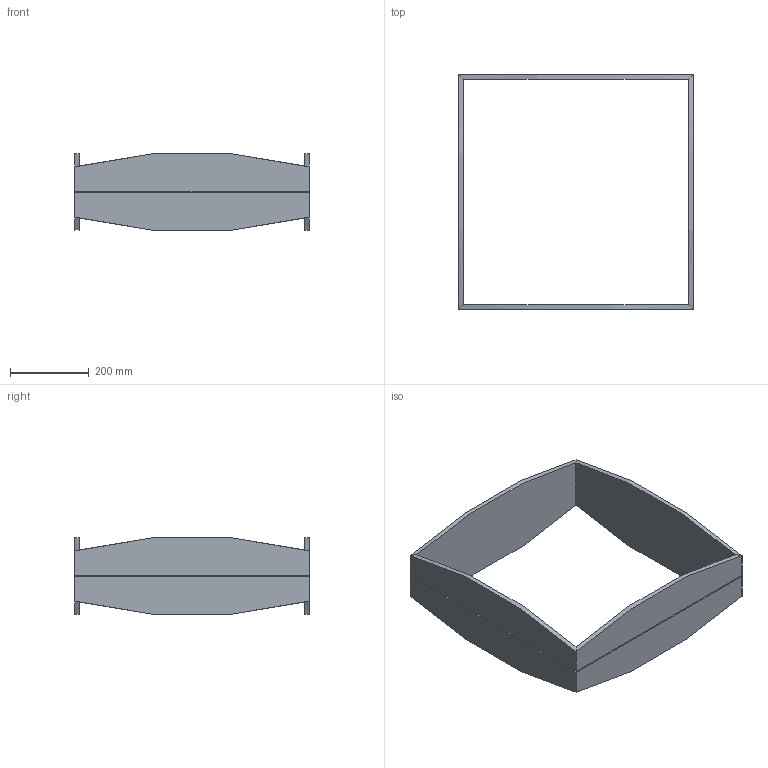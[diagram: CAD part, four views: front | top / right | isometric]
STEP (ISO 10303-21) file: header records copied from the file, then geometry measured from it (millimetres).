
FILE_DESCRIPTION(/* description */ (''),/* implementation_level */ '2;1');
FILE_NAME(/* name */ 'Profile_5',/* time_stamp */ '2026-07-07T12:54:06-05:00',/* author */ (''),/* organization */ (''),/* preprocessor_version */ 'ST-DEVELOPER v19.2',/* originating_system */ 'Rhino 8.32',/* authorisation */ '');
FILE_SCHEMA (('CONFIG_CONTROL_DESIGN'));
Length unit declared in the file: inch
Products named in the file (1): Document
Bounding box: 596.9 x 596.9 x 195.52 mm (x, y, z)
Volume: 4985258.5 mm3; surface area: 938248.6 mm2
Topology: 4 solids, 4 shells, 40 faces, 97 edges, 64 vertices
Faces by surface type: plane 32, cylinder 8
Entity records: 1209 total; most frequent: CARTESIAN_POINT 348, ORIENTED_EDGE 192, EDGE_CURVE 96, B_SPLINE_CURVE_WITH_KNOTS 80, DIRECTION 79, VERTEX_POINT 64, AXIS2_PLACEMENT_3D 59, ADVANCED_FACE 40
